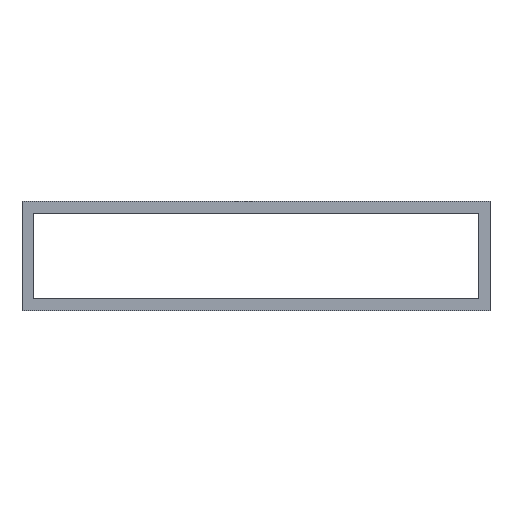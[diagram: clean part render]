
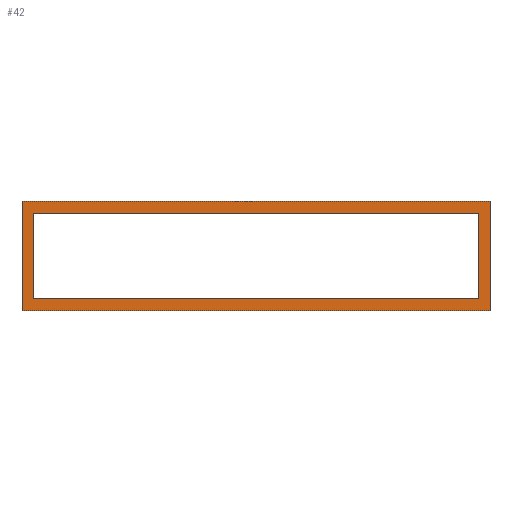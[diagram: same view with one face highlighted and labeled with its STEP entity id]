
A CAD part, top view. The second image highlights one B-rep face of the part: STEP entity #42.
In plain terms, the highlighted planar face has unit normal (0, 0, 1).
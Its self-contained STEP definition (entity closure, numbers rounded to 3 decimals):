
#42 = ADVANCED_FACE( '', ( #83, #84 ), #85, .T. );
#83 = FACE_BOUND( '', #122, .T. );
#84 = FACE_OUTER_BOUND( '', #123, .T. );
#85 = PLANE( '', #124 );
#122 = EDGE_LOOP( '', ( #175, #176, #177, #178 ) );
#123 = EDGE_LOOP( '', ( #179, #180, #181, #182 ) );
#124 = AXIS2_PLACEMENT_3D( '', #183, #184, #185 );
#175 = ORIENTED_EDGE( '', *, *, #233, .F. );
#176 = ORIENTED_EDGE( '', *, *, #249, .F. );
#177 = ORIENTED_EDGE( '', *, *, #250, .F. );
#178 = ORIENTED_EDGE( '', *, *, #251, .F. );
#179 = ORIENTED_EDGE( '', *, *, #238, .T. );
#180 = ORIENTED_EDGE( '', *, *, #243, .T. );
#181 = ORIENTED_EDGE( '', *, *, #252, .T. );
#182 = ORIENTED_EDGE( '', *, *, #246, .T. );
#183 = CARTESIAN_POINT( '', ( 0., 0., 4. ) );
#184 = DIRECTION( '', ( 0., 0., 1. ) );
#185 = DIRECTION( '', ( 1., 0., 0. ) );
#233 = EDGE_CURVE( '', #268, #270, #271, .T. );
#238 = EDGE_CURVE( '', #279, #277, #280, .T. );
#243 = EDGE_CURVE( '', #277, #285, #287, .T. );
#246 = EDGE_CURVE( '', #291, #279, #292, .T. );
#249 = EDGE_CURVE( '', #295, #268, #296, .T. );
#250 = EDGE_CURVE( '', #297, #295, #298, .T. );
#251 = EDGE_CURVE( '', #270, #297, #299, .T. );
#252 = EDGE_CURVE( '', #285, #291, #300, .T. );
#268 = VERTEX_POINT( '', #319 );
#270 = VERTEX_POINT( '', #322 );
#271 = LINE( '', #323, #324 );
#277 = VERTEX_POINT( '', #332 );
#279 = VERTEX_POINT( '', #335 );
#280 = LINE( '', #336, #337 );
#285 = VERTEX_POINT( '', #344 );
#287 = LINE( '', #347, #348 );
#291 = VERTEX_POINT( '', #353 );
#292 = LINE( '', #354, #355 );
#295 = VERTEX_POINT( '', #359 );
#296 = LINE( '', #360, #361 );
#297 = VERTEX_POINT( '', #362 );
#298 = LINE( '', #363, #364 );
#299 = LINE( '', #365, #366 );
#300 = LINE( '', #367, #368 );
#319 = CARTESIAN_POINT( '', ( -257., 49., 4. ) );
#322 = CARTESIAN_POINT( '', ( -257., -49., 4. ) );
#323 = CARTESIAN_POINT( '', ( -257., 49., 4. ) );
#324 = VECTOR( '', #390, 1000. );
#332 = CARTESIAN_POINT( '', ( -270., -63., 4. ) );
#335 = CARTESIAN_POINT( '', ( -270., 63., 4. ) );
#336 = CARTESIAN_POINT( '', ( -270., 63., 4. ) );
#337 = VECTOR( '', #394, 1000. );
#344 = CARTESIAN_POINT( '', ( 270., -63., 4. ) );
#347 = CARTESIAN_POINT( '', ( -270., -63., 4. ) );
#348 = VECTOR( '', #398, 1000. );
#353 = CARTESIAN_POINT( '', ( 270., 63., 4. ) );
#354 = CARTESIAN_POINT( '', ( 270., 63., 4. ) );
#355 = VECTOR( '', #400, 1000. );
#359 = CARTESIAN_POINT( '', ( 257., 49., 4. ) );
#360 = CARTESIAN_POINT( '', ( 257., 49., 4. ) );
#361 = VECTOR( '', #402, 1000. );
#362 = CARTESIAN_POINT( '', ( 257., -49., 4. ) );
#363 = CARTESIAN_POINT( '', ( 257., -49., 4. ) );
#364 = VECTOR( '', #403, 1000. );
#365 = CARTESIAN_POINT( '', ( -257., -49., 4. ) );
#366 = VECTOR( '', #404, 1000. );
#367 = CARTESIAN_POINT( '', ( 270., -63., 4. ) );
#368 = VECTOR( '', #405, 1000. );
#390 = DIRECTION( '', ( 0., -1., 0. ) );
#394 = DIRECTION( '', ( 0., -1., 0. ) );
#398 = DIRECTION( '', ( 1., 0., 0. ) );
#400 = DIRECTION( '', ( -1., 0., 0. ) );
#402 = DIRECTION( '', ( -1., 0., 0. ) );
#403 = DIRECTION( '', ( 0., 1., 0. ) );
#404 = DIRECTION( '', ( 1., 0., 0. ) );
#405 = DIRECTION( '', ( 0., 1., 0. ) );
